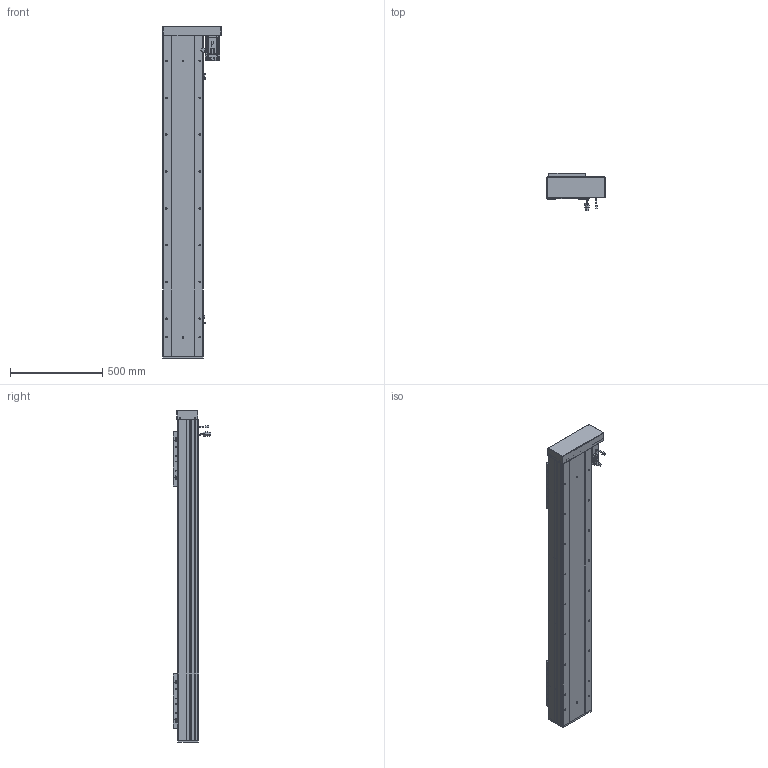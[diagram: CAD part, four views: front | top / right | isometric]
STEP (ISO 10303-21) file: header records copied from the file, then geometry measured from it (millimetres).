
FILE_DESCRIPTION (( 'STEP AP203' ), '1' );
FILE_NAME ('RY220F-L2525-800-RK-邧嶺.SLDASM_1300.step', '2022-08-06T08:19:22', ( '' ), ( '' ), 'SwSTEP 2.0', 'SolidWorks 2016', '' );
FILE_SCHEMA (( 'CONFIG_CONTROL_DESIGN' ));
Length unit declared in the file: millimetre
Products named in the file (15): RY220F-L2525-800-RK-邧嶺.SLDASM_1300; 怢湛750W_ECMA-CX0807ES; RY220F-祥凄詩湍-蛌殏-800_1300; RY220F-蛌殏奻裔啣-800_1300; RY220左右折电机安装板; RY220F臏賑釱25-32佪裝; 覜茼ん672; RY220F綴裔啣; RY220F-672覜茼んえ; RY220F-滅鳥奻裔; 滅袉蝶18-24; RY220F-詩湍揤踡輸; RY220F蛌殏菁釱-800-邧嶺_1300; RY220酘衵殏萇儂欶; 侐源滅袉蝶
Assembly tree (24 placements, depth 2):
  RY220F-L2525-800-RK-邧嶺.SLDASM_1300
    RY220F蛌殏菁釱-800-邧嶺_1300
    RY220F-蛌殏奻裔啣-800_1300  x2
    怢湛750W_ECMA-CX0807ES
    RY220F臏賑釱25-32佪裝  x2
    RY220F-滅鳥奻裔  x2
    滅袉蝶18-24  x3
    RY220F綴裔啣
    RY220F-祥凄詩湍-蛌殏-800_1300
    RY220F-詩湍揤踡輸  x2
    覜茼ん672  x3
    RY220F-672覜茼んえ  x2
    RY220左右折电机安装板
    RY220酘衵殏萇儂欶
    侐源滅袉蝶  x2
Bounding box: 317.5 x 205.27 x 1803 mm (x, y, z)
Volume: 16607158 mm3; surface area: 4378139.7 mm2
Topology: 25 solids, 25 shells, 2800 faces, 7612 edges, 4704 vertices
Faces by surface type: cylinder 1266, plane 1044, cone 419, bspline 45, sphere 16, torus 10
Entity records: 69564 total; most frequent: CARTESIAN_POINT 18789, ORIENTED_EDGE 10246, DIRECTION 10000, EDGE_CURVE 5123, AXIS2_PLACEMENT_3D 3566, VERTEX_POINT 3320, VECTOR 2868, LINE 2868
